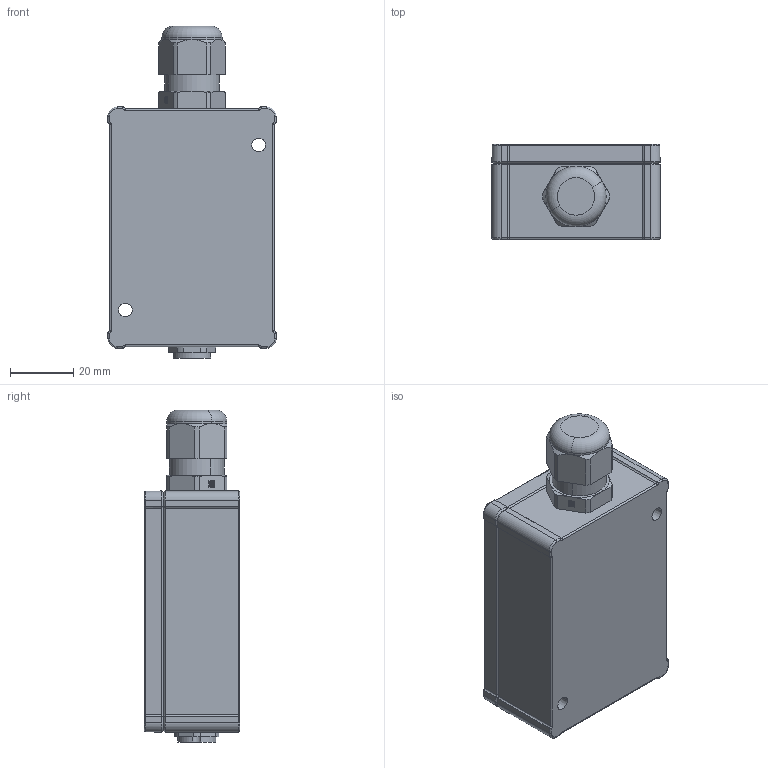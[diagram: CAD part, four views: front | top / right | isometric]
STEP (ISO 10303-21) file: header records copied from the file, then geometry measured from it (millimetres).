
FILE_DESCRIPTION((''),'2;1');
FILE_NAME('0000195172_SW0001','2020-03-02T11:48:50',('11000775'),(''),'CREO PARAMETRIC BY PTC INC, 2019030','CREO PARAMETRIC BY PTC INC, 2019030','');
FILE_SCHEMA(('AUTOMOTIVE_DESIGN { 1 0 10303 214 1 1 1 1 }'));
Length unit declared in the file: millimetre
Products named in the file (1): 0000195172_SW0001
Bounding box: 53 x 30 x 104.6 mm (x, y, z)
Volume: 120909.7 mm3; surface area: 19596.8 mm2
Topology: 1 solids, 1 shells, 650 faces, 1625 edges, 1018 vertices
Faces by surface type: plane 312, cylinder 130, cone 107, bspline 36, extrusion 35, torus 30
Entity records: 36855 total; most frequent: CARTESIAN_POINT 11253, ORIENTED_EDGE 3230, DIRECTION 2944, PRESENTATION_STYLE_ASSIGNMENT 2305, STYLED_ITEM 1655, CURVE_STYLE 1654, EDGE_CURVE 1615, AXIS2_PLACEMENT_3D 1027
